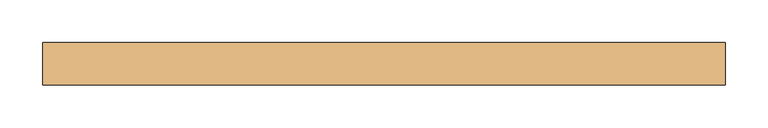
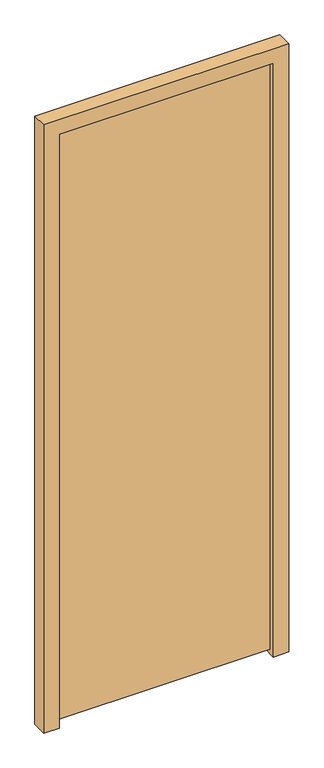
"""IFC4 building model written with IfcOpenShell, lengths in millimetres: door geometry, Dr_Дверь_v2.1 : ДВДГ 21-8_выполняется собственником."""

from ifc_helpers import new_model, si_unit, frame, origin, place, context, project, spatial, polyline, outline, extrude, source, transform, mapped, element, save


def door_1132ae02(model_context):
    return source(origin(), model_context, "Body", "SweptSolid", [
        extrude(outline(polyline([(0.0, -275.0), (0.0, -225.0), (2050.0, -225.0), (2050.0, 475.0), (0.0, 475.0), (0.0, 525.0), (2100.0, 525.0), (2100.0, -275.0), (0.0, -275.0)])), frame((0.0, 12.5, 0.0), z_axis=(0.0, 1.0, 0.0), x_axis=(0.0, 0.0, 1.0)), (0.0, 0.0, 1.0), 50.0),
        extrude(outline(polyline([(475.0, 32.5), (-225.0, 32.5), (-225.0, 62.5), (475.0, 62.5), (475.0, 32.5)])), frame((0.0, 0.0, 14.0), z_axis=(0.0, 0.0, 1.0), x_axis=(1.0, 0.0, 0.0)), (0.0, 0.0, 1.0), 2036.0),
    ])


if __name__ == "__main__":
    model = new_model("IFC4")
    model_context = context("Model", 3, world=origin())
    ifc_project = project(units=[si_unit("LENGTHUNIT", "METRE", prefix="MILLI")], contexts=[model_context])
    site = spatial("IfcSite", under=ifc_project)
    building = spatial("IfcBuilding", under=site)
    placement = place(None, origin())
    door_shape = door_1132ae02(model_context)
    element("IfcDoor", 1, ObjectType="Dr_Дверь_v2.1 : ДВДГ 21-8_выполняется собственником", at=placement, inside=building, context=model_context, shape_type="MappedRepresentation", body=[
        mapped(door_shape, transform((0.0, 0.0, 0.0), x_axis=(1.0, 0.0, 0.0), y_axis=(0.0, 1.0, 0.0), z_axis=(0.0, 0.0, 1.0))),
    ])
    save(model, "model.ifc")
